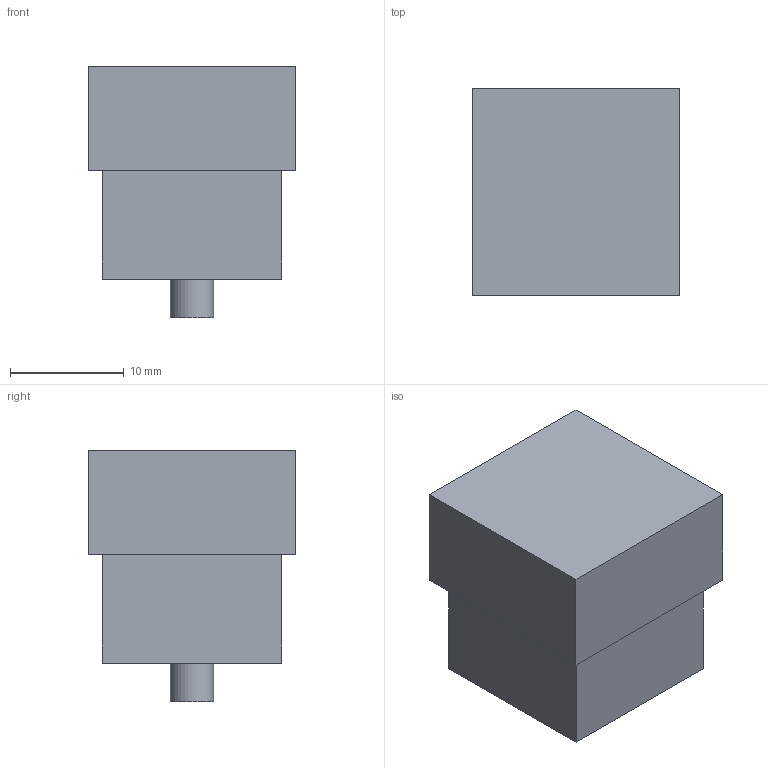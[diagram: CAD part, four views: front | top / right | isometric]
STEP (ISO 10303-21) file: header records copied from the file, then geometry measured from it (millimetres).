
FILE_DESCRIPTION(('Open CASCADE Model'),'2;1');
FILE_NAME('Open CASCADE Shape Model','2026-10-01T17:03:59',('Author'),( 'Open CASCADE'),'Open CASCADE STEP processor 7.9','Open CASCADE 7.9' ,'Unknown');
FILE_SCHEMA(('AUTOMOTIVE_DESIGN { 1 0 10303 214 1 1 1 1 }'));
Length unit declared in the file: millimetre
Products named in the file (4): Open CASCADE STEP translator 7.9 4; Open CASCADE STEP translator 7.9 4.1; Open CASCADE STEP translator 7.9 4.2; Open CASCADE STEP translator 7.9 4.3
Assembly tree (3 placements, depth 2):
  Open CASCADE STEP translator 7.9 4
    Open CASCADE STEP translator 7.9 4.1
    Open CASCADE STEP translator 7.9 4.2
    Open CASCADE STEP translator 7.9 4.3
Bounding box: 18.2 x 18.2 x 22.1 mm (x, y, z)
Volume: 5958 mm3; surface area: 2622.8 mm2
Topology: 3 solids, 3 shells, 15 faces, 27 edges, 18 vertices
Faces by surface type: plane 14, cylinder 1
Full cylindrical faces by diameter (mm): 3.8 x1
Entity records: 774 total; most frequent: DIRECTION 121, CARTESIAN_POINT 118, LINE 77, VECTOR 77, ORIENTED_EDGE 54, PCURVE 54, DEFINITIONAL_REPRESENTATION 54, EDGE_CURVE 27
